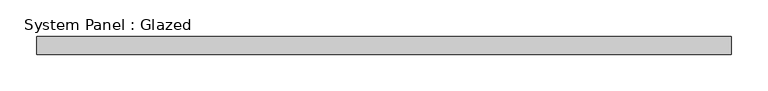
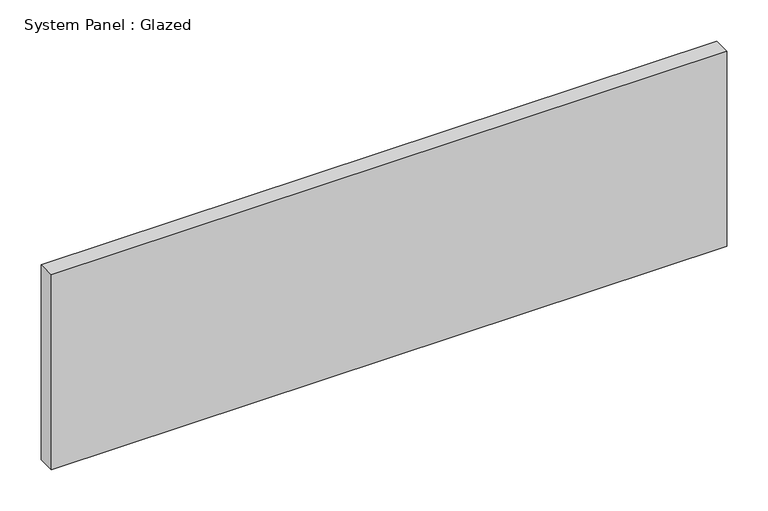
"""IFC4 building model written with IfcOpenShell, lengths in millimetres: plate geometry, System Panel : Glazed."""

from ifc_helpers import new_model, si_unit, origin, origin_with_axes, place, context, project, spatial, polyline, outline, extrude, source, transform, mapped, element, save


def system_panel_glazed_9a47c754(model_context):
    return source(origin(), model_context, "Body", "SweptSolid", [
        extrude(outline(polyline([(475.0, 24.5), (-475.0, 24.5), (-475.0, 49.5), (475.0, 49.5), (475.0, 24.5)])), origin_with_axes(), (0.0, 0.0, 1.0), 289.7256931),
    ])


if __name__ == "__main__":
    model = new_model("IFC4")
    model_context = context("Model", 3, world=origin())
    ifc_project = project(units=[si_unit("LENGTHUNIT", "METRE", prefix="MILLI")], contexts=[model_context])
    site = spatial("IfcSite", under=ifc_project)
    building = spatial("IfcBuilding", under=site)
    placement = place(None, origin())
    system_panel_glazed_shape = system_panel_glazed_9a47c754(model_context)
    element("IfcPlate", 1, ObjectType="System Panel : Glazed", at=placement, inside=building, context=model_context, shape_type="MappedRepresentation", body=[
        mapped(system_panel_glazed_shape, transform((0.0, 0.0, 0.0), x_axis=(1.0, 0.0, 0.0), y_axis=(0.0, 1.0, 0.0), z_axis=(0.0, 0.0, 1.0))),
    ])
    save(model, "model.ifc")
